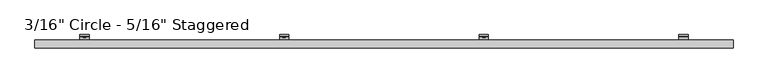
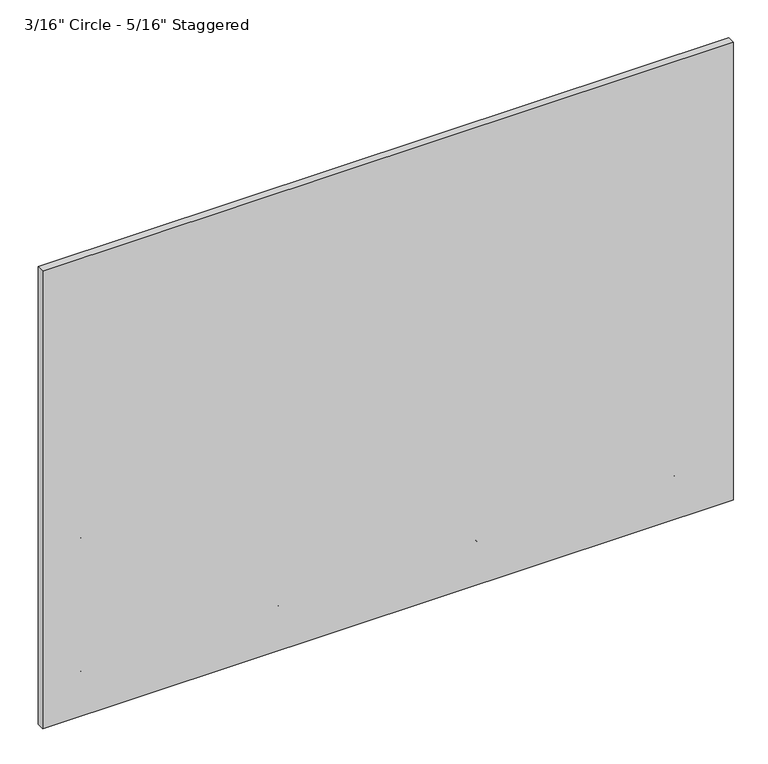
"""IFC4 building model written with IfcOpenShell, lengths in millimetres: plate geometry."""

from ifc_helpers import new_model, si_unit, point, frame, frame_2d, origin, place, context, project, spatial, polyline, circle_curve, trimmed, segment, composite_curve, outline, extrude, source, transform, mapped, element, save
from ifc_brep_helpers import plane_surface, cylinder_surface, revolved_surface, advanced_brep


def plate_24d3d4b7(model_context):
    return source(origin(), model_context, "Body", "SolidModel", [
        advanced_brep(
        [(1209.675, -47.625, 737.3555208), (1209.675, -51.2819443, 729.6934884), (1209.675, -89.5163624, 702.9214606), (1209.675, -92.9330442, 706.3381424), (1209.675, -54.3526876, 733.3523989), (1209.675, -52.4002, 737.3555917), (1209.675, -52.4002, 771.5482059), (1209.675, -47.625, 771.5482059), (1247.775, -47.625, 737.3555208), (1247.775, -47.625, 771.5482059), (1247.775, -52.4002, 771.5482059), (1247.775, -52.4002, 737.3555917), (1247.775, -54.3526876, 733.3523989), (1247.775, -92.9330442, 706.3381424), (1247.775, -89.5163624, 702.9214606), (1247.775, -51.2819443, 729.6934884), (1235.4661889, -52.4002, 757.5029897), (1235.4661889, -52.4002, 751.1529897), (1219.2383287, -52.4002, 751.1529897), (1219.2383287, -52.4002, 757.5029897), (1235.4661889, -47.625, 751.1529897), (1235.4661889, -47.625, 757.5029897), (1219.2383287, -47.625, 757.5029897), (1219.2383287, -47.625, 751.1529897)],
        [
            (0, 1, circle_curve(frame((1209.675, -57.4802202, 737.3555208), z_axis=(-1.0, 0.0, 0.0), x_axis=(0.0, -1.0, 0.0)), 9.8552202)),
            (1, 2),
            (2, 3),
            (3, 4),
            (4, 5, circle_curve(frame((1209.675, -57.4803246, 737.3555917), z_axis=(1.0, 0.0, 0.0), x_axis=(0.0, -1.0, 0.0)), 5.0801246)),
            (5, 6),
            (6, 7),
            (7, 0),
            (8, 9),
            (9, 10),
            (10, 11),
            (11, 12, circle_curve(frame((1247.775, -57.4803246, 737.3555917), z_axis=(-1.0, 0.0, 0.0), x_axis=(0.0, -1.0, 0.0)), 5.0801246)),
            (12, 13),
            (13, 14),
            (14, 15),
            (15, 8, circle_curve(frame((1247.775, -57.4802202, 737.3555208), z_axis=(1.0, 0.0, 0.0), x_axis=(0.0, -1.0, 0.0)), 9.8552202)),
            (4, 12),
            (11, 5),
            (10, 6),
            (16, 17, circle_curve(frame((1235.4661889, -52.4002, 754.3279897), z_axis=(0.0, 1.0, 0.0), x_axis=(0.0, 0.0, -1.0)), 3.175)),
            (17, 18),
            (18, 19, circle_curve(frame((1219.2383287, -52.4002, 754.3279897), z_axis=(0.0, 1.0, 0.0), x_axis=(0.0, 0.0, -1.0)), 3.175)),
            (19, 16),
            (9, 7),
            (8, 0),
            (20, 21, circle_curve(frame((1235.4661889, -47.625, 754.3279897), z_axis=(0.0, -1.0, 0.0), x_axis=(0.0, 0.0, -1.0)), 3.175)),
            (21, 22),
            (22, 23, circle_curve(frame((1219.2383287, -47.625, 754.3279897), z_axis=(0.0, -1.0, 0.0), x_axis=(0.0, 0.0, -1.0)), 3.175)),
            (23, 20),
            (15, 1),
            (20, 17),
            (16, 21),
            (19, 22),
            (18, 23),
            (14, 2),
            (13, 3),
        ],
        [
            plane_surface(frame((1209.675, -67.3354404, 737.3555208), z_axis=(-1.0, 0.0, 0.0), x_axis=(0.0, 0.0, 1.0))),
            plane_surface(frame((1247.775, -67.3354404, 737.3555208), z_axis=(1.0, 0.0, 0.0), x_axis=(0.0, 0.0, -1.0))),
            revolved_surface(polyline([(1247.775, -62.5604492, 737.3555917), (1209.675, -62.5604492, 737.3555917)]), (1247.775, -57.4803246, 737.3555917), (1.0, 0.0, 0.0)),
            plane_surface(frame((1209.675, -52.4002, 737.3555917), z_axis=(0.0, -1.0, 0.0), x_axis=(1.0, 0.0, 0.0))),
            plane_surface(frame((1209.675, -52.4002, 771.5482059), z_axis=(0.0, 0.0, 1.0), x_axis=(1.0, 0.0, 0.0))),
            plane_surface(frame((1209.675, -47.625, 771.5482059), z_axis=(0.0, 1.0, 6.99569853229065e-12), x_axis=(1.0, 0.0, 0.0))),
            cylinder_surface(frame((1247.775, -57.4802202, 737.3555208), z_axis=(-1.0, 0.0, 0.0), x_axis=(0.0, -1.0, 0.0)), 9.8552202),
            revolved_surface(polyline([(1235.4661889, -52.4002, 751.1529897), (1235.4661889, -47.625, 751.1529897)]), (1235.4661889, -25.6669948, 754.3279897), (0.0, -1.0, 0.0)),
            plane_surface(frame((1235.4661889, -86.677982, 757.5029897), z_axis=(0.0, 0.0, -1.0), x_axis=(0.0, 1.0, 0.0))),
            revolved_surface(polyline([(1219.2383287, -52.4002, 751.1529897), (1219.2383287, -47.625, 751.1529897)]), (1219.2383287, -25.6669948, 754.3279897), (0.0, -1.0, 0.0)),
            plane_surface(frame((1219.2383287, -86.677982, 751.1529897), z_axis=(-2.7237733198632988e-11, 0.0, 1.0), x_axis=(0.0, 1.0, 0.0))),
            plane_surface(frame((1209.675, -51.2819443, 729.6934884), z_axis=(0.0, 0.5735764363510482, -0.8191520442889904), x_axis=(1.0, 0.0, 0.0))),
            plane_surface(frame((1209.675, -89.5163624, 702.9214606), z_axis=(0.0, -0.7071067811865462, -0.7071067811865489), x_axis=(1.0, 0.0, 0.0))),
            plane_surface(frame((1209.675, -92.9330442, 706.3381424), z_axis=(0.0, -0.5735764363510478, 0.8191520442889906), x_axis=(1.0, 0.0, 0.0))),
        ],
        [
            (0, [[1, 2, 3, 4, 5, 6, 7, 8]]),
            (1, [[9, 10, 11, 12, 13, 14, 15, 16]]),
            (2, [[-5, 17, -12, 18]]),
            (3, [[-6, -18, -11, 19], [20, 21, 22, 23]]),
            (4, [[-7, -19, -10, 24]]),
            (5, [[-8, -24, -9, 25], [26, 27, 28, 29]]),
            (6, [[-1, -25, -16, 30]]),
            (7, [[31, -20, 32, -26]]),
            (8, [[-32, -23, 33, -27]]),
            (9, [[-33, -22, 34, -28]]),
            (10, [[-31, -29, -34, -21]]),
            (11, [[-2, -30, -15, 35]]),
            (12, [[-3, -35, -14, 36]]),
            (13, [[-4, -36, -13, -17]]),
        ],
    ),
        extrude(outline(polyline([(754.5048329, 404.5570034), (750.1591204, 407.0660017), (750.1591204, 412.0839983), (754.5048329, 414.5929966), (758.8505454, 412.0839983), (758.8505454, 407.0660017), (754.5048329, 404.5570034)])), frame((0.0, -58.7607779, 0.0), z_axis=(0.0, 1.0, 0.0), x_axis=(0.0, 0.0, 1.0)), (0.0, 0.0, 1.0), 11.1357779),
        extrude(outline(composite_curve([segment(trimmed(circle_curve(frame_2d((754.5981399, 409.575)), 6.35), [point((754.5981399, 415.925))], [point((754.5981399, 403.225))], False, "CARTESIAN"), True, "CONTINUOUS"), segment(trimmed(circle_curve(frame_2d((754.5981399, 409.575)), 6.35), [point((754.5981399, 403.225))], [point((754.5981399, 415.925))], False, "CARTESIAN"), True, "CONTINUOUS")], self_intersect=False)), frame((0.0, -57.0817743, 0.0), z_axis=(0.0, 1.0, 0.0), x_axis=(0.0, 0.0, 1.0)), (0.0, 0.0, 1.0), 9.4567743),
        advanced_brep(
        [(390.525, -47.625, 737.3555208), (390.525, -51.2819443, 729.6934884), (390.525, -89.5163624, 702.9214606), (390.525, -92.9330442, 706.3381424), (390.525, -54.3526876, 733.3523989), (390.525, -52.4002, 737.3555917), (390.525, -52.4002, 771.5482059), (390.525, -47.625, 771.5482059), (428.625, -47.625, 737.3555208), (428.625, -47.625, 771.5482059), (428.625, -52.4002, 771.5482059), (428.625, -52.4002, 737.3555917), (428.625, -54.3526876, 733.3523989), (428.625, -92.9330442, 706.3381424), (428.625, -89.5163624, 702.9214606), (428.625, -51.2819443, 729.6934884), (416.3161889, -52.4002, 757.5029897), (416.3161889, -52.4002, 751.1529897), (400.0883287, -52.4002, 751.1529897), (400.0883287, -52.4002, 757.5029897), (416.3161889, -47.625, 751.1529897), (416.3161889, -47.625, 757.5029897), (400.0883287, -47.625, 757.5029897), (400.0883287, -47.625, 751.1529897)],
        [
            (0, 1, circle_curve(frame((390.525, -57.4802202, 737.3555208), z_axis=(-1.0, 0.0, 0.0), x_axis=(0.0, -1.0, 0.0)), 9.8552202)),
            (1, 2),
            (2, 3),
            (3, 4),
            (4, 5, circle_curve(frame((390.525, -57.4803246, 737.3555917), z_axis=(1.0, 0.0, 0.0), x_axis=(0.0, -1.0, 0.0)), 5.0801246)),
            (5, 6),
            (6, 7),
            (7, 0),
            (8, 9),
            (9, 10),
            (10, 11),
            (11, 12, circle_curve(frame((428.625, -57.4803246, 737.3555917), z_axis=(-1.0, 0.0, 0.0), x_axis=(0.0, -1.0, 0.0)), 5.0801246)),
            (12, 13),
            (13, 14),
            (14, 15),
            (15, 8, circle_curve(frame((428.625, -57.4802202, 737.3555208), z_axis=(1.0, 0.0, 0.0), x_axis=(0.0, -1.0, 0.0)), 9.8552202)),
            (4, 12),
            (11, 5),
            (10, 6),
            (16, 17, circle_curve(frame((416.3161889, -52.4002, 754.3279897), z_axis=(0.0, 1.0, 0.0), x_axis=(0.0, 0.0, -1.0)), 3.175)),
            (17, 18),
            (18, 19, circle_curve(frame((400.0883287, -52.4002, 754.3279897), z_axis=(0.0, 1.0, 0.0), x_axis=(0.0, 0.0, -1.0)), 3.175)),
            (19, 16),
            (9, 7),
            (8, 0),
            (20, 21, circle_curve(frame((416.3161889, -47.625, 754.3279897), z_axis=(0.0, -1.0, 0.0), x_axis=(0.0, 0.0, -1.0)), 3.175)),
            (21, 22),
            (22, 23, circle_curve(frame((400.0883287, -47.625, 754.3279897), z_axis=(0.0, -1.0, 0.0), x_axis=(0.0, 0.0, -1.0)), 3.175)),
            (23, 20),
            (15, 1),
            (20, 17),
            (16, 21),
            (19, 22),
            (18, 23),
            (14, 2),
            (13, 3),
        ],
        [
            plane_surface(frame((390.525, -67.3354404, 737.3555208), z_axis=(-1.0, 0.0, 0.0), x_axis=(0.0, 0.0, 1.0))),
            plane_surface(frame((428.625, -67.3354404, 737.3555208), z_axis=(1.0, 0.0, 0.0), x_axis=(0.0, 0.0, -1.0))),
            revolved_surface(polyline([(428.625, -62.5604492, 737.3555917), (390.525, -62.5604492, 737.3555917)]), (428.625, -57.4803246, 737.3555917), (1.0, 0.0, 0.0)),
            plane_surface(frame((390.525, -52.4002, 737.3555917), z_axis=(0.0, -1.0, 0.0), x_axis=(1.0, 0.0, 0.0))),
            plane_surface(frame((390.525, -52.4002, 771.5482059), z_axis=(0.0, 0.0, 1.0), x_axis=(1.0, 0.0, 0.0))),
            plane_surface(frame((390.525, -47.625, 771.5482059), z_axis=(0.0, 1.0, 6.99569853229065e-12), x_axis=(1.0, 0.0, 0.0))),
            cylinder_surface(frame((428.625, -57.4802202, 737.3555208), z_axis=(-1.0, 0.0, 0.0), x_axis=(0.0, -1.0, 0.0)), 9.8552202),
            revolved_surface(polyline([(416.3161889, -52.4002, 751.1529897), (416.3161889, -47.625, 751.1529897)]), (416.3161889, -25.6669948, 754.3279897), (0.0, -1.0, 0.0)),
            plane_surface(frame((416.3161889, -86.677982, 757.5029897), z_axis=(0.0, 0.0, -1.0), x_axis=(0.0, 1.0, 0.0))),
            revolved_surface(polyline([(400.0883287, -52.4002, 751.1529897), (400.0883287, -47.625, 751.1529897)]), (400.0883287, -25.6669948, 754.3279897), (0.0, -1.0, 0.0)),
            plane_surface(frame((400.0883287, -86.677982, 751.1529897), z_axis=(-2.7237733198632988e-11, 0.0, 1.0), x_axis=(0.0, 1.0, 0.0))),
            plane_surface(frame((390.525, -51.2819443, 729.6934884), z_axis=(0.0, 0.5735764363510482, -0.8191520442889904), x_axis=(1.0, 0.0, 0.0))),
            plane_surface(frame((390.525, -89.5163624, 702.9214606), z_axis=(0.0, -0.7071067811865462, -0.7071067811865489), x_axis=(1.0, 0.0, 0.0))),
            plane_surface(frame((390.525, -92.9330442, 706.3381424), z_axis=(0.0, -0.5735764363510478, 0.8191520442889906), x_axis=(1.0, 0.0, 0.0))),
        ],
        [
            (0, [[1, 2, 3, 4, 5, 6, 7, 8]]),
            (1, [[9, 10, 11, 12, 13, 14, 15, 16]]),
            (2, [[-5, 17, -12, 18]]),
            (3, [[-6, -18, -11, 19], [20, 21, 22, 23]]),
            (4, [[-7, -19, -10, 24]]),
            (5, [[-8, -24, -9, 25], [26, 27, 28, 29]]),
            (6, [[-1, -25, -16, 30]]),
            (7, [[31, -20, 32, -26]]),
            (8, [[-32, -23, 33, -27]]),
            (9, [[-33, -22, 34, -28]]),
            (10, [[-31, -29, -34, -21]]),
            (11, [[-2, -30, -15, 35]]),
            (12, [[-3, -35, -14, 36]]),
            (13, [[-4, -36, -13, -17]]),
        ],
    ),
        extrude(outline(polyline([(754.5048329, -414.5929966), (750.1591204, -412.0839983), (750.1591204, -407.0660017), (754.5048329, -404.5570034), (758.8505454, -407.0660017), (758.8505454, -412.0839983), (754.5048329, -414.5929966)])), frame((0.0, -58.7607779, 0.0), z_axis=(0.0, 1.0, 0.0), x_axis=(0.0, 0.0, 1.0)), (0.0, 0.0, 1.0), 11.1357779),
        extrude(outline(composite_curve([segment(trimmed(circle_curve(frame_2d((754.5981399, -409.575)), 6.35), [point((754.5981399, -403.225))], [point((754.5981399, -415.925))], False, "CARTESIAN"), True, "CONTINUOUS"), segment(trimmed(circle_curve(frame_2d((754.5981399, -409.575)), 6.35), [point((754.5981399, -415.925))], [point((754.5981399, -403.225))], False, "CARTESIAN"), True, "CONTINUOUS")], self_intersect=False)), frame((0.0, -57.0817743, 0.0), z_axis=(0.0, 1.0, 0.0), x_axis=(0.0, 0.0, 1.0)), (0.0, 0.0, 1.0), 9.4567743),
        advanced_brep(
        [(-428.625, -47.625, 737.3555208), (-428.625, -51.2819443, 729.6934884), (-428.625, -89.5163624, 702.9214606), (-428.625, -92.9330442, 706.3381424), (-428.625, -54.3526876, 733.3523989), (-428.625, -52.4002, 737.3555917), (-428.625, -52.4002, 771.5482059), (-428.625, -47.625, 771.5482059), (-390.525, -47.625, 737.3555208), (-390.525, -47.625, 771.5482059), (-390.525, -52.4002, 771.5482059), (-390.525, -52.4002, 737.3555917), (-390.525, -54.3526876, 733.3523989), (-390.525, -92.9330442, 706.3381424), (-390.525, -89.5163624, 702.9214606), (-390.525, -51.2819443, 729.6934884), (-402.8338111, -52.4002, 757.5029897), (-402.8338111, -52.4002, 751.1529897), (-419.0616713, -52.4002, 751.1529897), (-419.0616713, -52.4002, 757.5029897), (-402.8338111, -47.625, 751.1529897), (-402.8338111, -47.625, 757.5029897), (-419.0616713, -47.625, 757.5029897), (-419.0616713, -47.625, 751.1529897)],
        [
            (0, 1, circle_curve(frame((-428.625, -57.4802202, 737.3555208), z_axis=(-1.0, 0.0, 0.0), x_axis=(0.0, -1.0, 0.0)), 9.8552202)),
            (1, 2),
            (2, 3),
            (3, 4),
            (4, 5, circle_curve(frame((-428.625, -57.4803246, 737.3555917), z_axis=(1.0, 0.0, 0.0), x_axis=(0.0, -1.0, 0.0)), 5.0801246)),
            (5, 6),
            (6, 7),
            (7, 0),
            (8, 9),
            (9, 10),
            (10, 11),
            (11, 12, circle_curve(frame((-390.525, -57.4803246, 737.3555917), z_axis=(-1.0, 0.0, 0.0), x_axis=(0.0, -1.0, 0.0)), 5.0801246)),
            (12, 13),
            (13, 14),
            (14, 15),
            (15, 8, circle_curve(frame((-390.525, -57.4802202, 737.3555208), z_axis=(1.0, 0.0, 0.0), x_axis=(0.0, -1.0, 0.0)), 9.8552202)),
            (4, 12),
            (11, 5),
            (10, 6),
            (16, 17, circle_curve(frame((-402.8338111, -52.4002, 754.3279897), z_axis=(0.0, 1.0, 0.0), x_axis=(0.0, 0.0, -1.0)), 3.175)),
            (17, 18),
            (18, 19, circle_curve(frame((-419.0616713, -52.4002, 754.3279897), z_axis=(0.0, 1.0, 0.0), x_axis=(0.0, 0.0, -1.0)), 3.175)),
            (19, 16),
            (9, 7),
            (8, 0),
            (20, 21, circle_curve(frame((-402.8338111, -47.625, 754.3279897), z_axis=(0.0, -1.0, 0.0), x_axis=(0.0, 0.0, -1.0)), 3.175)),
            (21, 22),
            (22, 23, circle_curve(frame((-419.0616713, -47.625, 754.3279897), z_axis=(0.0, -1.0, 0.0), x_axis=(0.0, 0.0, -1.0)), 3.175)),
            (23, 20),
            (15, 1),
            (20, 17),
            (16, 21),
            (19, 22),
            (18, 23),
            (14, 2),
            (13, 3),
        ],
        [
            plane_surface(frame((-428.625, -67.3354404, 737.3555208), z_axis=(-1.0, 0.0, 0.0), x_axis=(0.0, 0.0, 1.0))),
            plane_surface(frame((-390.525, -67.3354404, 737.3555208), z_axis=(1.0, 0.0, 0.0), x_axis=(0.0, 0.0, -1.0))),
            revolved_surface(polyline([(-390.525, -62.5604492, 737.3555917), (-428.625, -62.5604492, 737.3555917)]), (-390.525, -57.4803246, 737.3555917), (1.0, 0.0, 0.0)),
            plane_surface(frame((-428.625, -52.4002, 737.3555917), z_axis=(0.0, -1.0, 0.0), x_axis=(1.0, 0.0, 0.0))),
            plane_surface(frame((-428.625, -52.4002, 771.5482059), z_axis=(0.0, 0.0, 1.0), x_axis=(1.0, 0.0, 0.0))),
            plane_surface(frame((-428.625, -47.625, 771.5482059), z_axis=(0.0, 1.0, 6.99569853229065e-12), x_axis=(1.0, 0.0, 0.0))),
            cylinder_surface(frame((-390.525, -57.4802202, 737.3555208), z_axis=(-1.0, 0.0, 0.0), x_axis=(0.0, -1.0, 0.0)), 9.8552202),
            revolved_surface(polyline([(-402.8338111, -52.4002, 751.1529897), (-402.8338111, -47.625, 751.1529897)]), (-402.8338111, -25.6669948, 754.3279897), (0.0, -1.0, 0.0)),
            plane_surface(frame((-402.8338111, -86.677982, 757.5029897), z_axis=(0.0, 0.0, -1.0), x_axis=(0.0, 1.0, 0.0))),
            revolved_surface(polyline([(-419.0616713, -52.4002, 751.1529897), (-419.0616713, -47.625, 751.1529897)]), (-419.0616713, -25.6669948, 754.3279897), (0.0, -1.0, 0.0)),
            plane_surface(frame((-419.0616713, -86.677982, 751.1529897), z_axis=(-2.7237733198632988e-11, 0.0, 1.0), x_axis=(0.0, 1.0, 0.0))),
            plane_surface(frame((-428.625, -51.2819443, 729.6934884), z_axis=(0.0, 0.5735764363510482, -0.8191520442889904), x_axis=(1.0, 0.0, 0.0))),
            plane_surface(frame((-428.625, -89.5163624, 702.9214606), z_axis=(0.0, -0.7071067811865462, -0.7071067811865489), x_axis=(1.0, 0.0, 0.0))),
            plane_surface(frame((-428.625, -92.9330442, 706.3381424), z_axis=(0.0, -0.5735764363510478, 0.8191520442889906), x_axis=(1.0, 0.0, 0.0))),
        ],
        [
            (0, [[1, 2, 3, 4, 5, 6, 7, 8]]),
            (1, [[9, 10, 11, 12, 13, 14, 15, 16]]),
            (2, [[-5, 17, -12, 18]]),
            (3, [[-6, -18, -11, 19], [20, 21, 22, 23]]),
            (4, [[-7, -19, -10, 24]]),
            (5, [[-8, -24, -9, 25], [26, 27, 28, 29]]),
            (6, [[-1, -25, -16, 30]]),
            (7, [[31, -20, 32, -26]]),
            (8, [[-32, -23, 33, -27]]),
            (9, [[-33, -22, 34, -28]]),
            (10, [[-31, -29, -34, -21]]),
            (11, [[-2, -30, -15, 35]]),
            (12, [[-3, -35, -14, 36]]),
            (13, [[-4, -36, -13, -17]]),
        ],
    ),
        extrude(outline(polyline([(754.5048329, -1233.7429966), (750.1591204, -1231.2339983), (750.1591204, -1226.2160017), (754.5048329, -1223.7070034), (758.8505454, -1226.2160017), (758.8505454, -1231.2339983), (754.5048329, -1233.7429966)])), frame((0.0, -58.7607779, 0.0), z_axis=(0.0, 1.0, 0.0), x_axis=(0.0, 0.0, 1.0)), (0.0, 0.0, 1.0), 11.1357779),
        extrude(outline(composite_curve([segment(trimmed(circle_curve(frame_2d((754.5981399, -1228.725)), 6.35), [point((754.5981399, -1222.375))], [point((754.5981399, -1235.075))], False, "CARTESIAN"), True, "CONTINUOUS"), segment(trimmed(circle_curve(frame_2d((754.5981399, -1228.725)), 6.35), [point((754.5981399, -1235.075))], [point((754.5981399, -1222.375))], False, "CARTESIAN"), True, "CONTINUOUS")], self_intersect=False)), frame((0.0, -57.0817743, 0.0), z_axis=(0.0, 1.0, 0.0), x_axis=(0.0, 0.0, 1.0)), (0.0, 0.0, 1.0), 9.4567743),
        advanced_brep(
        [(-1247.775, -47.625, 737.3555208), (-1247.775, -51.2819443, 729.6934884), (-1247.775, -89.5163624, 702.9214606), (-1247.775, -92.9330442, 706.3381424), (-1247.775, -54.3526876, 733.3523989), (-1247.775, -52.4002, 737.3555917), (-1247.775, -52.4002, 771.5482059), (-1247.775, -47.625, 771.5482059), (-1209.675, -47.625, 737.3555208), (-1209.675, -47.625, 771.5482059), (-1209.675, -52.4002, 771.5482059), (-1209.675, -52.4002, 737.3555917), (-1209.675, -54.3526876, 733.3523989), (-1209.675, -92.9330442, 706.3381424), (-1209.675, -89.5163624, 702.9214606), (-1209.675, -51.2819443, 729.6934884), (-1221.9838111, -52.4002, 757.5029897), (-1221.9838111, -52.4002, 751.1529897), (-1238.2116713, -52.4002, 751.1529897), (-1238.2116713, -52.4002, 757.5029897), (-1221.9838111, -47.625, 751.1529897), (-1221.9838111, -47.625, 757.5029897), (-1238.2116713, -47.625, 757.5029897), (-1238.2116713, -47.625, 751.1529897)],
        [
            (0, 1, circle_curve(frame((-1247.775, -57.4802202, 737.3555208), z_axis=(-1.0, 0.0, 0.0), x_axis=(0.0, -1.0, 0.0)), 9.8552202)),
            (1, 2),
            (2, 3),
            (3, 4),
            (4, 5, circle_curve(frame((-1247.775, -57.4803246, 737.3555917), z_axis=(1.0, 0.0, 0.0), x_axis=(0.0, -1.0, 0.0)), 5.0801246)),
            (5, 6),
            (6, 7),
            (7, 0),
            (8, 9),
            (9, 10),
            (10, 11),
            (11, 12, circle_curve(frame((-1209.675, -57.4803246, 737.3555917), z_axis=(-1.0, 0.0, 0.0), x_axis=(0.0, -1.0, 0.0)), 5.0801246)),
            (12, 13),
            (13, 14),
            (14, 15),
            (15, 8, circle_curve(frame((-1209.675, -57.4802202, 737.3555208), z_axis=(1.0, 0.0, 0.0), x_axis=(0.0, -1.0, 0.0)), 9.8552202)),
            (4, 12),
            (11, 5),
            (10, 6),
            (16, 17, circle_curve(frame((-1221.9838111, -52.4002, 754.3279897), z_axis=(0.0, 1.0, 0.0), x_axis=(0.0, 0.0, -1.0)), 3.175)),
            (17, 18),
            (18, 19, circle_curve(frame((-1238.2116713, -52.4002, 754.3279897), z_axis=(0.0, 1.0, 0.0), x_axis=(0.0, 0.0, -1.0)), 3.175)),
            (19, 16),
            (9, 7),
            (8, 0),
            (20, 21, circle_curve(frame((-1221.9838111, -47.625, 754.3279897), z_axis=(0.0, -1.0, 0.0), x_axis=(0.0, 0.0, -1.0)), 3.175)),
            (21, 22),
            (22, 23, circle_curve(frame((-1238.2116713, -47.625, 754.3279897), z_axis=(0.0, -1.0, 0.0), x_axis=(0.0, 0.0, -1.0)), 3.175)),
            (23, 20),
            (15, 1),
            (20, 17),
            (16, 21),
            (19, 22),
            (18, 23),
            (14, 2),
            (13, 3),
        ],
        [
            plane_surface(frame((-1247.775, -67.3354404, 737.3555208), z_axis=(-1.0, 0.0, 0.0), x_axis=(0.0, 0.0, 1.0))),
            plane_surface(frame((-1209.675, -67.3354404, 737.3555208), z_axis=(1.0, 0.0, 0.0), x_axis=(0.0, 0.0, -1.0))),
            revolved_surface(polyline([(-1209.675, -62.5604492, 737.3555917), (-1247.775, -62.5604492, 737.3555917)]), (-1209.675, -57.4803246, 737.3555917), (1.0, 0.0, 0.0)),
            plane_surface(frame((-1247.775, -52.4002, 737.3555917), z_axis=(0.0, -1.0, 0.0), x_axis=(1.0, 0.0, 0.0))),
            plane_surface(frame((-1247.775, -52.4002, 771.5482059), z_axis=(0.0, 0.0, 1.0), x_axis=(1.0, 0.0, 0.0))),
            plane_surface(frame((-1247.775, -47.625, 771.5482059), z_axis=(0.0, 1.0, 6.99569853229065e-12), x_axis=(1.0, 0.0, 0.0))),
            cylinder_surface(frame((-1209.675, -57.4802202, 737.3555208), z_axis=(-1.0, 0.0, 0.0), x_axis=(0.0, -1.0, 0.0)), 9.8552202),
            revolved_surface(polyline([(-1221.9838111, -52.4002, 751.1529897), (-1221.9838111, -47.625, 751.1529897)]), (-1221.9838111, -25.6669948, 754.3279897), (0.0, -1.0, 0.0)),
            plane_surface(frame((-1221.9838111, -86.677982, 757.5029897), z_axis=(0.0, 0.0, -1.0), x_axis=(0.0, 1.0, 0.0))),
            revolved_surface(polyline([(-1238.2116713, -52.4002, 751.1529897), (-1238.2116713, -47.625, 751.1529897)]), (-1238.2116713, -25.6669948, 754.3279897), (0.0, -1.0, 0.0)),
            plane_surface(frame((-1238.2116713, -86.677982, 751.1529897), z_axis=(-2.7237733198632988e-11, 0.0, 1.0), x_axis=(0.0, 1.0, 0.0))),
            plane_surface(frame((-1247.775, -51.2819443, 729.6934884), z_axis=(0.0, 0.5735764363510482, -0.8191520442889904), x_axis=(1.0, 0.0, 0.0))),
            plane_surface(frame((-1247.775, -89.5163624, 702.9214606), z_axis=(0.0, -0.7071067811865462, -0.7071067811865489), x_axis=(1.0, 0.0, 0.0))),
            plane_surface(frame((-1247.775, -92.9330442, 706.3381424), z_axis=(0.0, -0.5735764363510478, 0.8191520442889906), x_axis=(1.0, 0.0, 0.0))),
        ],
        [
            (0, [[1, 2, 3, 4, 5, 6, 7, 8]]),
            (1, [[9, 10, 11, 12, 13, 14, 15, 16]]),
            (2, [[-5, 17, -12, 18]]),
            (3, [[-6, -18, -11, 19], [20, 21, 22, 23]]),
            (4, [[-7, -19, -10, 24]]),
            (5, [[-8, -24, -9, 25], [26, 27, 28, 29]]),
            (6, [[-1, -25, -16, 30]]),
            (7, [[31, -20, 32, -26]]),
            (8, [[-32, -23, 33, -27]]),
            (9, [[-33, -22, 34, -28]]),
            (10, [[-31, -29, -34, -21]]),
            (11, [[-2, -30, -15, 35]]),
            (12, [[-3, -35, -14, 36]]),
            (13, [[-4, -36, -13, -17]]),
        ],
    ),
        extrude(outline(polyline([(169.8795323, 1223.7070034), (165.5338197, 1226.2160017), (165.5338197, 1231.2339983), (169.8795323, 1233.7429966), (174.2252448, 1231.2339983), (174.2252448, 1226.2160017), (169.8795323, 1223.7070034)])), frame((0.0, -58.7607779, 0.0), z_axis=(0.0, 1.0, 0.0), x_axis=(0.0, 0.0, 1.0)), (0.0, 0.0, 1.0), 11.1357779),
        extrude(outline(composite_curve([segment(trimmed(circle_curve(frame_2d((169.9728392, 1228.725)), 6.35), [point((169.9728392, 1235.075))], [point((169.9728392, 1222.375))], False, "CARTESIAN"), True, "CONTINUOUS"), segment(trimmed(circle_curve(frame_2d((169.9728392, 1228.725)), 6.35), [point((169.9728392, 1222.375))], [point((169.9728392, 1235.075))], False, "CARTESIAN"), True, "CONTINUOUS")], self_intersect=False)), frame((0.0, -57.0817743, 0.0), z_axis=(0.0, 1.0, 0.0), x_axis=(0.0, 0.0, 1.0)), (0.0, 0.0, 1.0), 9.4567743),
        advanced_brep(
        [(1209.675, -47.625, 152.7302202), (1209.675, -51.2819443, 145.0681877), (1209.675, -89.5163624, 118.29616), (1209.675, -92.9330442, 121.7128418), (1209.675, -54.3526876, 148.7270983), (1209.675, -52.4002, 152.7302911), (1209.675, -52.4002, 186.9229053), (1209.675, -47.625, 186.9229053), (1247.775, -47.625, 152.7302202), (1247.775, -47.625, 186.9229053), (1247.775, -52.4002, 186.9229053), (1247.775, -52.4002, 152.7302911), (1247.775, -54.3526876, 148.7270983), (1247.775, -92.9330442, 121.7128418), (1247.775, -89.5163624, 118.29616), (1247.775, -51.2819443, 145.0681877), (1235.4661889, -52.4002, 172.8776891), (1235.4661889, -52.4002, 166.5276891), (1219.2383287, -52.4002, 166.5276891), (1219.2383287, -52.4002, 172.8776891), (1235.4661889, -47.625, 166.5276891), (1235.4661889, -47.625, 172.8776891), (1219.2383287, -47.625, 172.8776891), (1219.2383287, -47.625, 166.5276891)],
        [
            (0, 1, circle_curve(frame((1209.675, -57.4802202, 152.7302202), z_axis=(-1.0, 0.0, 0.0), x_axis=(0.0, -1.0, 0.0)), 9.8552202)),
            (1, 2),
            (2, 3),
            (3, 4),
            (4, 5, circle_curve(frame((1209.675, -57.4803246, 152.7302911), z_axis=(1.0, 0.0, 0.0), x_axis=(0.0, -1.0, 0.0)), 5.0801246)),
            (5, 6),
            (6, 7),
            (7, 0),
            (8, 9),
            (9, 10),
            (10, 11),
            (11, 12, circle_curve(frame((1247.775, -57.4803246, 152.7302911), z_axis=(-1.0, 0.0, 0.0), x_axis=(0.0, -1.0, 0.0)), 5.0801246)),
            (12, 13),
            (13, 14),
            (14, 15),
            (15, 8, circle_curve(frame((1247.775, -57.4802202, 152.7302202), z_axis=(1.0, 0.0, 0.0), x_axis=(0.0, -1.0, 0.0)), 9.8552202)),
            (4, 12),
            (11, 5),
            (10, 6),
            (16, 17, circle_curve(frame((1235.4661889, -52.4002, 169.7026891), z_axis=(0.0, 1.0, 0.0), x_axis=(0.0, 0.0, -1.0)), 3.175)),
            (17, 18),
            (18, 19, circle_curve(frame((1219.2383287, -52.4002, 169.7026891), z_axis=(0.0, 1.0, 0.0), x_axis=(0.0, 0.0, -1.0)), 3.175)),
            (19, 16),
            (9, 7),
            (8, 0),
            (20, 21, circle_curve(frame((1235.4661889, -47.625, 169.7026891), z_axis=(0.0, -1.0, 0.0), x_axis=(0.0, 0.0, -1.0)), 3.175)),
            (21, 22),
            (22, 23, circle_curve(frame((1219.2383287, -47.625, 169.7026891), z_axis=(0.0, -1.0, 0.0), x_axis=(0.0, 0.0, -1.0)), 3.175)),
            (23, 20),
            (15, 1),
            (20, 17),
            (16, 21),
            (19, 22),
            (18, 23),
            (14, 2),
            (13, 3),
        ],
        [
            plane_surface(frame((1209.675, -67.3354404, 152.7302202), z_axis=(-1.0, 0.0, 0.0), x_axis=(0.0, 0.0, 1.0))),
            plane_surface(frame((1247.775, -67.3354404, 152.7302202), z_axis=(1.0, 0.0, 0.0), x_axis=(0.0, 0.0, -1.0))),
            revolved_surface(polyline([(1247.775, -62.5604492, 152.7302911), (1209.675, -62.5604492, 152.7302911)]), (1247.775, -57.4803246, 152.7302911), (1.0, 0.0, 0.0)),
            plane_surface(frame((1209.675, -52.4002, 152.7302911), z_axis=(0.0, -1.0, 0.0), x_axis=(1.0, 0.0, 0.0))),
            plane_surface(frame((1209.675, -52.4002, 186.9229053), z_axis=(0.0, 0.0, 1.0), x_axis=(1.0, 0.0, 0.0))),
            plane_surface(frame((1209.675, -47.625, 186.9229053), z_axis=(0.0, 1.0, 6.99569853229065e-12), x_axis=(1.0, 0.0, 0.0))),
            cylinder_surface(frame((1247.775, -57.4802202, 152.7302202), z_axis=(-1.0, 0.0, 0.0), x_axis=(0.0, -1.0, 0.0)), 9.8552202),
            revolved_surface(polyline([(1235.4661889, -52.4002, 166.52768909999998), (1235.4661889, -47.625, 166.52768909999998)]), (1235.4661889, -25.6669948, 169.7026891), (0.0, -1.0, 0.0)),
            plane_surface(frame((1235.4661889, -86.677982, 172.8776891), z_axis=(0.0, 0.0, -1.0), x_axis=(0.0, 1.0, 0.0))),
            revolved_surface(polyline([(1219.2383287, -52.4002, 166.52768909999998), (1219.2383287, -47.625, 166.52768909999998)]), (1219.2383287, -25.6669948, 169.7026891), (0.0, -1.0, 0.0)),
            plane_surface(frame((1219.2383287, -86.677982, 166.5276891), z_axis=(-2.723774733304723e-11, 0.0, 1.0), x_axis=(0.0, 1.0, 0.0))),
            plane_surface(frame((1209.675, -51.2819443, 145.0681877), z_axis=(0.0, 0.5735764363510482, -0.8191520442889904), x_axis=(1.0, 0.0, 0.0))),
            plane_surface(frame((1209.675, -89.5163624, 118.29616), z_axis=(0.0, -0.7071067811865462, -0.7071067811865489), x_axis=(1.0, 0.0, 0.0))),
            plane_surface(frame((1209.675, -92.9330442, 121.7128418), z_axis=(0.0, -0.5735764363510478, 0.8191520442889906), x_axis=(1.0, 0.0, 0.0))),
        ],
        [
            (0, [[1, 2, 3, 4, 5, 6, 7, 8]]),
            (1, [[9, 10, 11, 12, 13, 14, 15, 16]]),
            (2, [[-5, 17, -12, 18]]),
            (3, [[-6, -18, -11, 19], [20, 21, 22, 23]]),
            (4, [[-7, -19, -10, 24]]),
            (5, [[-8, -24, -9, 25], [26, 27, 28, 29]]),
            (6, [[-1, -25, -16, 30]]),
            (7, [[31, -20, 32, -26]]),
            (8, [[-32, -23, 33, -27]]),
            (9, [[-33, -22, 34, -28]]),
            (10, [[-31, -29, -34, -21]]),
            (11, [[-2, -30, -15, 35]]),
            (12, [[-3, -35, -14, 36]]),
            (13, [[-4, -36, -13, -17]]),
        ],
    ),
        extrude(outline(polyline([(169.8795323, 404.5570034), (165.5338197, 407.0660017), (165.5338197, 412.0839983), (169.8795323, 414.5929966), (174.2252448, 412.0839983), (174.2252448, 407.0660017), (169.8795323, 404.5570034)])), frame((0.0, -58.7607779, 0.0), z_axis=(0.0, 1.0, 0.0), x_axis=(0.0, 0.0, 1.0)), (0.0, 0.0, 1.0), 11.1357779),
        extrude(outline(composite_curve([segment(trimmed(circle_curve(frame_2d((169.9728392, 409.575)), 6.35), [point((169.9728392, 415.925))], [point((169.9728392, 403.225))], False, "CARTESIAN"), True, "CONTINUOUS"), segment(trimmed(circle_curve(frame_2d((169.9728392, 409.575)), 6.35), [point((169.9728392, 403.225))], [point((169.9728392, 415.925))], False, "CARTESIAN"), True, "CONTINUOUS")], self_intersect=False)), frame((0.0, -57.0817743, 0.0), z_axis=(0.0, 1.0, 0.0), x_axis=(0.0, 0.0, 1.0)), (0.0, 0.0, 1.0), 9.4567743),
        advanced_brep(
        [(390.525, -47.625, 152.7302202), (390.525, -51.2819443, 145.0681877), (390.525, -89.5163624, 118.29616), (390.525, -92.9330442, 121.7128418), (390.525, -54.3526876, 148.7270983), (390.525, -52.4002, 152.7302911), (390.525, -52.4002, 186.9229053), (390.525, -47.625, 186.9229053), (428.625, -47.625, 152.7302202), (428.625, -47.625, 186.9229053), (428.625, -52.4002, 186.9229053), (428.625, -52.4002, 152.7302911), (428.625, -54.3526876, 148.7270983), (428.625, -92.9330442, 121.7128418), (428.625, -89.5163624, 118.29616), (428.625, -51.2819443, 145.0681877), (416.3161889, -52.4002, 172.8776891), (416.3161889, -52.4002, 166.5276891), (400.0883287, -52.4002, 166.5276891), (400.0883287, -52.4002, 172.8776891), (416.3161889, -47.625, 166.5276891), (416.3161889, -47.625, 172.8776891), (400.0883287, -47.625, 172.8776891), (400.0883287, -47.625, 166.5276891)],
        [
            (0, 1, circle_curve(frame((390.525, -57.4802202, 152.7302202), z_axis=(-1.0, 0.0, 0.0), x_axis=(0.0, -1.0, 0.0)), 9.8552202)),
            (1, 2),
            (2, 3),
            (3, 4),
            (4, 5, circle_curve(frame((390.525, -57.4803246, 152.7302911), z_axis=(1.0, 0.0, 0.0), x_axis=(0.0, -1.0, 0.0)), 5.0801246)),
            (5, 6),
            (6, 7),
            (7, 0),
            (8, 9),
            (9, 10),
            (10, 11),
            (11, 12, circle_curve(frame((428.625, -57.4803246, 152.7302911), z_axis=(-1.0, 0.0, 0.0), x_axis=(0.0, -1.0, 0.0)), 5.0801246)),
            (12, 13),
            (13, 14),
            (14, 15),
            (15, 8, circle_curve(frame((428.625, -57.4802202, 152.7302202), z_axis=(1.0, 0.0, 0.0), x_axis=(0.0, -1.0, 0.0)), 9.8552202)),
            (4, 12),
            (11, 5),
            (10, 6),
            (16, 17, circle_curve(frame((416.3161889, -52.4002, 169.7026891), z_axis=(0.0, 1.0, 0.0), x_axis=(0.0, 0.0, -1.0)), 3.175)),
            (17, 18),
            (18, 19, circle_curve(frame((400.0883287, -52.4002, 169.7026891), z_axis=(0.0, 1.0, 0.0), x_axis=(0.0, 0.0, -1.0)), 3.175)),
            (19, 16),
            (9, 7),
            (8, 0),
            (20, 21, circle_curve(frame((416.3161889, -47.625, 169.7026891), z_axis=(0.0, -1.0, 0.0), x_axis=(0.0, 0.0, -1.0)), 3.175)),
            (21, 22),
            (22, 23, circle_curve(frame((400.0883287, -47.625, 169.7026891), z_axis=(0.0, -1.0, 0.0), x_axis=(0.0, 0.0, -1.0)), 3.175)),
            (23, 20),
            (15, 1),
            (20, 17),
            (16, 21),
            (19, 22),
            (18, 23),
            (14, 2),
            (13, 3),
        ],
        [
            plane_surface(frame((390.525, -67.3354404, 152.7302202), z_axis=(-1.0, 0.0, 0.0), x_axis=(0.0, 0.0, 1.0))),
            plane_surface(frame((428.625, -67.3354404, 152.7302202), z_axis=(1.0, 0.0, 0.0), x_axis=(0.0, 0.0, -1.0))),
            revolved_surface(polyline([(428.625, -62.5604492, 152.7302911), (390.525, -62.5604492, 152.7302911)]), (428.625, -57.4803246, 152.7302911), (1.0, 0.0, 0.0)),
            plane_surface(frame((390.525, -52.4002, 152.7302911), z_axis=(0.0, -1.0, 0.0), x_axis=(1.0, 0.0, 0.0))),
            plane_surface(frame((390.525, -52.4002, 186.9229053), z_axis=(0.0, 0.0, 1.0), x_axis=(1.0, 0.0, 0.0))),
            plane_surface(frame((390.525, -47.625, 186.9229053), z_axis=(0.0, 1.0, 6.99569853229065e-12), x_axis=(1.0, 0.0, 0.0))),
            cylinder_surface(frame((428.625, -57.4802202, 152.7302202), z_axis=(-1.0, 0.0, 0.0), x_axis=(0.0, -1.0, 0.0)), 9.8552202),
            revolved_surface(polyline([(416.3161889, -52.4002, 166.52768909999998), (416.3161889, -47.625, 166.52768909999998)]), (416.3161889, -25.6669948, 169.7026891), (0.0, -1.0, 0.0)),
            plane_surface(frame((416.3161889, -86.677982, 172.8776891), z_axis=(0.0, 0.0, -1.0), x_axis=(0.0, 1.0, 0.0))),
            revolved_surface(polyline([(400.0883287, -52.4002, 166.52768909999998), (400.0883287, -47.625, 166.52768909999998)]), (400.0883287, -25.6669948, 169.7026891), (0.0, -1.0, 0.0)),
            plane_surface(frame((400.0883287, -86.677982, 166.5276891), z_axis=(-2.723774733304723e-11, 0.0, 1.0), x_axis=(0.0, 1.0, 0.0))),
            plane_surface(frame((390.525, -51.2819443, 145.0681877), z_axis=(0.0, 0.5735764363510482, -0.8191520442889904), x_axis=(1.0, 0.0, 0.0))),
            plane_surface(frame((390.525, -89.5163624, 118.29616), z_axis=(0.0, -0.7071067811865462, -0.7071067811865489), x_axis=(1.0, 0.0, 0.0))),
            plane_surface(frame((390.525, -92.9330442, 121.7128418), z_axis=(0.0, -0.5735764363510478, 0.8191520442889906), x_axis=(1.0, 0.0, 0.0))),
        ],
        [
            (0, [[1, 2, 3, 4, 5, 6, 7, 8]]),
            (1, [[9, 10, 11, 12, 13, 14, 15, 16]]),
            (2, [[-5, 17, -12, 18]]),
            (3, [[-6, -18, -11, 19], [20, 21, 22, 23]]),
            (4, [[-7, -19, -10, 24]]),
            (5, [[-8, -24, -9, 25], [26, 27, 28, 29]]),
            (6, [[-1, -25, -16, 30]]),
            (7, [[31, -20, 32, -26]]),
            (8, [[-32, -23, 33, -27]]),
            (9, [[-33, -22, 34, -28]]),
            (10, [[-31, -29, -34, -21]]),
            (11, [[-2, -30, -15, 35]]),
            (12, [[-3, -35, -14, 36]]),
            (13, [[-4, -36, -13, -17]]),
        ],
    ),
        extrude(outline(polyline([(169.8795323, -414.5929966), (165.5338197, -412.0839983), (165.5338197, -407.0660017), (169.8795323, -404.5570034), (174.2252448, -407.0660017), (174.2252448, -412.0839983), (169.8795323, -414.5929966)])), frame((0.0, -58.7607779, 0.0), z_axis=(0.0, 1.0, 0.0), x_axis=(0.0, 0.0, 1.0)), (0.0, 0.0, 1.0), 11.1357779),
        extrude(outline(composite_curve([segment(trimmed(circle_curve(frame_2d((169.9728392, -409.575)), 6.35), [point((169.9728392, -403.225))], [point((169.9728392, -415.925))], False, "CARTESIAN"), True, "CONTINUOUS"), segment(trimmed(circle_curve(frame_2d((169.9728392, -409.575)), 6.35), [point((169.9728392, -415.925))], [point((169.9728392, -403.225))], False, "CARTESIAN"), True, "CONTINUOUS")], self_intersect=False)), frame((0.0, -57.0817743, 0.0), z_axis=(0.0, 1.0, 0.0), x_axis=(0.0, 0.0, 1.0)), (0.0, 0.0, 1.0), 9.4567743),
        advanced_brep(
        [(-428.625, -47.625, 152.7302202), (-428.625, -51.2819443, 145.0681877), (-428.625, -89.5163624, 118.29616), (-428.625, -92.9330442, 121.7128418), (-428.625, -54.3526876, 148.7270983), (-428.625, -52.4002, 152.7302911), (-428.625, -52.4002, 186.9229053), (-428.625, -47.625, 186.9229053), (-390.525, -47.625, 152.7302202), (-390.525, -47.625, 186.9229053), (-390.525, -52.4002, 186.9229053), (-390.525, -52.4002, 152.7302911), (-390.525, -54.3526876, 148.7270983), (-390.525, -92.9330442, 121.7128418), (-390.525, -89.5163624, 118.29616), (-390.525, -51.2819443, 145.0681877), (-402.8338111, -52.4002, 172.8776891), (-402.8338111, -52.4002, 166.5276891), (-419.0616713, -52.4002, 166.5276891), (-419.0616713, -52.4002, 172.8776891), (-402.8338111, -47.625, 166.5276891), (-402.8338111, -47.625, 172.8776891), (-419.0616713, -47.625, 172.8776891), (-419.0616713, -47.625, 166.5276891)],
        [
            (0, 1, circle_curve(frame((-428.625, -57.4802202, 152.7302202), z_axis=(-1.0, 0.0, 0.0), x_axis=(0.0, -1.0, 0.0)), 9.8552202)),
            (1, 2),
            (2, 3),
            (3, 4),
            (4, 5, circle_curve(frame((-428.625, -57.4803246, 152.7302911), z_axis=(1.0, 0.0, 0.0), x_axis=(0.0, -1.0, 0.0)), 5.0801246)),
            (5, 6),
            (6, 7),
            (7, 0),
            (8, 9),
            (9, 10),
            (10, 11),
            (11, 12, circle_curve(frame((-390.525, -57.4803246, 152.7302911), z_axis=(-1.0, 0.0, 0.0), x_axis=(0.0, -1.0, 0.0)), 5.0801246)),
            (12, 13),
            (13, 14),
            (14, 15),
            (15, 8, circle_curve(frame((-390.525, -57.4802202, 152.7302202), z_axis=(1.0, 0.0, 0.0), x_axis=(0.0, -1.0, 0.0)), 9.8552202)),
            (4, 12),
            (11, 5),
            (10, 6),
            (16, 17, circle_curve(frame((-402.8338111, -52.4002, 169.7026891), z_axis=(0.0, 1.0, 0.0), x_axis=(0.0, 0.0, -1.0)), 3.175)),
            (17, 18),
            (18, 19, circle_curve(frame((-419.0616713, -52.4002, 169.7026891), z_axis=(0.0, 1.0, 0.0), x_axis=(0.0, 0.0, -1.0)), 3.175)),
            (19, 16),
            (9, 7),
            (8, 0),
            (20, 21, circle_curve(frame((-402.8338111, -47.625, 169.7026891), z_axis=(0.0, -1.0, 0.0), x_axis=(0.0, 0.0, -1.0)), 3.175)),
            (21, 22),
            (22, 23, circle_curve(frame((-419.0616713, -47.625, 169.7026891), z_axis=(0.0, -1.0, 0.0), x_axis=(0.0, 0.0, -1.0)), 3.175)),
            (23, 20),
            (15, 1),
            (20, 17),
            (16, 21),
            (19, 22),
            (18, 23),
            (14, 2),
            (13, 3),
        ],
        [
            plane_surface(frame((-428.625, -67.3354404, 152.7302202), z_axis=(-1.0, 0.0, 0.0), x_axis=(0.0, 0.0, 1.0))),
            plane_surface(frame((-390.525, -67.3354404, 152.7302202), z_axis=(1.0, 0.0, 0.0), x_axis=(0.0, 0.0, -1.0))),
            revolved_surface(polyline([(-390.525, -62.5604492, 152.7302911), (-428.625, -62.5604492, 152.7302911)]), (-390.525, -57.4803246, 152.7302911), (1.0, 0.0, 0.0)),
            plane_surface(frame((-428.625, -52.4002, 152.7302911), z_axis=(0.0, -1.0, 0.0), x_axis=(1.0, 0.0, 0.0))),
            plane_surface(frame((-428.625, -52.4002, 186.9229053), z_axis=(0.0, 0.0, 1.0), x_axis=(1.0, 0.0, 0.0))),
            plane_surface(frame((-428.625, -47.625, 186.9229053), z_axis=(0.0, 1.0, 6.99569853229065e-12), x_axis=(1.0, 0.0, 0.0))),
            cylinder_surface(frame((-390.525, -57.4802202, 152.7302202), z_axis=(-1.0, 0.0, 0.0), x_axis=(0.0, -1.0, 0.0)), 9.8552202),
            revolved_surface(polyline([(-402.8338111, -52.4002, 166.52768909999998), (-402.8338111, -47.625, 166.52768909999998)]), (-402.8338111, -25.6669948, 169.7026891), (0.0, -1.0, 0.0)),
            plane_surface(frame((-402.8338111, -86.677982, 172.8776891), z_axis=(0.0, 0.0, -1.0), x_axis=(0.0, 1.0, 0.0))),
            revolved_surface(polyline([(-419.0616713, -52.4002, 166.52768909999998), (-419.0616713, -47.625, 166.52768909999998)]), (-419.0616713, -25.6669948, 169.7026891), (0.0, -1.0, 0.0)),
            plane_surface(frame((-419.0616713, -86.677982, 166.5276891), z_axis=(-2.723774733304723e-11, 0.0, 1.0), x_axis=(0.0, 1.0, 0.0))),
            plane_surface(frame((-428.625, -51.2819443, 145.0681877), z_axis=(0.0, 0.5735764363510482, -0.8191520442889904), x_axis=(1.0, 0.0, 0.0))),
            plane_surface(frame((-428.625, -89.5163624, 118.29616), z_axis=(0.0, -0.7071067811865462, -0.7071067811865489), x_axis=(1.0, 0.0, 0.0))),
            plane_surface(frame((-428.625, -92.9330442, 121.7128418), z_axis=(0.0, -0.5735764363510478, 0.8191520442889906), x_axis=(1.0, 0.0, 0.0))),
        ],
        [
            (0, [[1, 2, 3, 4, 5, 6, 7, 8]]),
            (1, [[9, 10, 11, 12, 13, 14, 15, 16]]),
            (2, [[-5, 17, -12, 18]]),
            (3, [[-6, -18, -11, 19], [20, 21, 22, 23]]),
            (4, [[-7, -19, -10, 24]]),
            (5, [[-8, -24, -9, 25], [26, 27, 28, 29]]),
            (6, [[-1, -25, -16, 30]]),
            (7, [[31, -20, 32, -26]]),
            (8, [[-32, -23, 33, -27]]),
            (9, [[-33, -22, 34, -28]]),
            (10, [[-31, -29, -34, -21]]),
            (11, [[-2, -30, -15, 35]]),
            (12, [[-3, -35, -14, 36]]),
            (13, [[-4, -36, -13, -17]]),
        ],
    ),
        extrude(outline(polyline([(169.8795323, -1233.7429966), (165.5338197, -1231.2339983), (165.5338197, -1226.2160017), (169.8795323, -1223.7070034), (174.2252448, -1226.2160017), (174.2252448, -1231.2339983), (169.8795323, -1233.7429966)])), frame((0.0, -58.7607779, 0.0), z_axis=(0.0, 1.0, 0.0), x_axis=(0.0, 0.0, 1.0)), (0.0, 0.0, 1.0), 11.1357779),
        extrude(outline(composite_curve([segment(trimmed(circle_curve(frame_2d((169.9728392, -1228.725)), 6.35), [point((169.9728392, -1222.375))], [point((169.9728392, -1235.075))], False, "CARTESIAN"), True, "CONTINUOUS"), segment(trimmed(circle_curve(frame_2d((169.9728392, -1228.725)), 6.35), [point((169.9728392, -1235.075))], [point((169.9728392, -1222.375))], False, "CARTESIAN"), True, "CONTINUOUS")], self_intersect=False)), frame((0.0, -57.0817743, 0.0), z_axis=(0.0, 1.0, 0.0), x_axis=(0.0, 0.0, 1.0)), (0.0, 0.0, 1.0), 9.4567743),
        advanced_brep(
        [(-1247.775, -47.625, 152.7302202), (-1247.775, -51.2819443, 145.0681877), (-1247.775, -89.5163624, 118.29616), (-1247.775, -92.9330442, 121.7128418), (-1247.775, -54.3526876, 148.7270983), (-1247.775, -52.4002, 152.7302911), (-1247.775, -52.4002, 186.9229053), (-1247.775, -47.625, 186.9229053), (-1209.675, -47.625, 152.7302202), (-1209.675, -47.625, 186.9229053), (-1209.675, -52.4002, 186.9229053), (-1209.675, -52.4002, 152.7302911), (-1209.675, -54.3526876, 148.7270983), (-1209.675, -92.9330442, 121.7128418), (-1209.675, -89.5163624, 118.29616), (-1209.675, -51.2819443, 145.0681877), (-1221.9838111, -52.4002, 172.8776891), (-1221.9838111, -52.4002, 166.5276891), (-1238.2116713, -52.4002, 166.5276891), (-1238.2116713, -52.4002, 172.8776891), (-1221.9838111, -47.625, 166.5276891), (-1221.9838111, -47.625, 172.8776891), (-1238.2116713, -47.625, 172.8776891), (-1238.2116713, -47.625, 166.5276891)],
        [
            (0, 1, circle_curve(frame((-1247.775, -57.4802202, 152.7302202), z_axis=(-1.0, 0.0, 0.0), x_axis=(0.0, -1.0, 0.0)), 9.8552202)),
            (1, 2),
            (2, 3),
            (3, 4),
            (4, 5, circle_curve(frame((-1247.775, -57.4803246, 152.7302911), z_axis=(1.0, 0.0, 0.0), x_axis=(0.0, -1.0, 0.0)), 5.0801246)),
            (5, 6),
            (6, 7),
            (7, 0),
            (8, 9),
            (9, 10),
            (10, 11),
            (11, 12, circle_curve(frame((-1209.675, -57.4803246, 152.7302911), z_axis=(-1.0, 0.0, 0.0), x_axis=(0.0, -1.0, 0.0)), 5.0801246)),
            (12, 13),
            (13, 14),
            (14, 15),
            (15, 8, circle_curve(frame((-1209.675, -57.4802202, 152.7302202), z_axis=(1.0, 0.0, 0.0), x_axis=(0.0, -1.0, 0.0)), 9.8552202)),
            (4, 12),
            (11, 5),
            (10, 6),
            (16, 17, circle_curve(frame((-1221.9838111, -52.4002, 169.7026891), z_axis=(0.0, 1.0, 0.0), x_axis=(0.0, 0.0, -1.0)), 3.175)),
            (17, 18),
            (18, 19, circle_curve(frame((-1238.2116713, -52.4002, 169.7026891), z_axis=(0.0, 1.0, 0.0), x_axis=(0.0, 0.0, -1.0)), 3.175)),
            (19, 16),
            (9, 7),
            (8, 0),
            (20, 21, circle_curve(frame((-1221.9838111, -47.625, 169.7026891), z_axis=(0.0, -1.0, 0.0), x_axis=(0.0, 0.0, -1.0)), 3.175)),
            (21, 22),
            (22, 23, circle_curve(frame((-1238.2116713, -47.625, 169.7026891), z_axis=(0.0, -1.0, 0.0), x_axis=(0.0, 0.0, -1.0)), 3.175)),
            (23, 20),
            (15, 1),
            (20, 17),
            (16, 21),
            (19, 22),
            (18, 23),
            (14, 2),
            (13, 3),
        ],
        [
            plane_surface(frame((-1247.775, -67.3354404, 152.7302202), z_axis=(-1.0, 0.0, 0.0), x_axis=(0.0, 0.0, 1.0))),
            plane_surface(frame((-1209.675, -67.3354404, 152.7302202), z_axis=(1.0, 0.0, 0.0), x_axis=(0.0, 0.0, -1.0))),
            revolved_surface(polyline([(-1209.675, -62.5604492, 152.7302911), (-1247.775, -62.5604492, 152.7302911)]), (-1209.675, -57.4803246, 152.7302911), (1.0, 0.0, 0.0)),
            plane_surface(frame((-1247.775, -52.4002, 152.7302911), z_axis=(0.0, -1.0, 0.0), x_axis=(1.0, 0.0, 0.0))),
            plane_surface(frame((-1247.775, -52.4002, 186.9229053), z_axis=(0.0, 0.0, 1.0), x_axis=(1.0, 0.0, 0.0))),
            plane_surface(frame((-1247.775, -47.625, 186.9229053), z_axis=(0.0, 1.0, 6.99569853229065e-12), x_axis=(1.0, 0.0, 0.0))),
            cylinder_surface(frame((-1209.675, -57.4802202, 152.7302202), z_axis=(-1.0, 0.0, 0.0), x_axis=(0.0, -1.0, 0.0)), 9.8552202),
            revolved_surface(polyline([(-1221.9838111, -52.4002, 166.52768909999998), (-1221.9838111, -47.625, 166.52768909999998)]), (-1221.9838111, -25.6669948, 169.7026891), (0.0, -1.0, 0.0)),
            plane_surface(frame((-1221.9838111, -86.677982, 172.8776891), z_axis=(0.0, 0.0, -1.0), x_axis=(0.0, 1.0, 0.0))),
            revolved_surface(polyline([(-1238.2116713, -52.4002, 166.52768909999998), (-1238.2116713, -47.625, 166.52768909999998)]), (-1238.2116713, -25.6669948, 169.7026891), (0.0, -1.0, 0.0)),
            plane_surface(frame((-1238.2116713, -86.677982, 166.5276891), z_axis=(-2.723774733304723e-11, 0.0, 1.0), x_axis=(0.0, 1.0, 0.0))),
            plane_surface(frame((-1247.775, -51.2819443, 145.0681877), z_axis=(0.0, 0.5735764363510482, -0.8191520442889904), x_axis=(1.0, 0.0, 0.0))),
            plane_surface(frame((-1247.775, -89.5163624, 118.29616), z_axis=(0.0, -0.7071067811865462, -0.7071067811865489), x_axis=(1.0, 0.0, 0.0))),
            plane_surface(frame((-1247.775, -92.9330442, 121.7128418), z_axis=(0.0, -0.5735764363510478, 0.8191520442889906), x_axis=(1.0, 0.0, 0.0))),
        ],
        [
            (0, [[1, 2, 3, 4, 5, 6, 7, 8]]),
            (1, [[9, 10, 11, 12, 13, 14, 15, 16]]),
            (2, [[-5, 17, -12, 18]]),
            (3, [[-6, -18, -11, 19], [20, 21, 22, 23]]),
            (4, [[-7, -19, -10, 24]]),
            (5, [[-8, -24, -9, 25], [26, 27, 28, 29]]),
            (6, [[-1, -25, -16, 30]]),
            (7, [[31, -20, 32, -26]]),
            (8, [[-32, -23, 33, -27]]),
            (9, [[-33, -22, 34, -28]]),
            (10, [[-31, -29, -34, -21]]),
            (11, [[-2, -30, -15, 35]]),
            (12, [[-3, -35, -14, 36]]),
            (13, [[-4, -36, -13, -17]]),
        ],
    ),
        extrude(outline(polyline([(1431.925, -102.4064478), (-1431.925, -102.4064478), (-1431.925, -69.9147678), (1431.925, -69.9147678), (1431.925, -102.4064478)])), frame((0.0, 0.0, 15.875), z_axis=(0.0, 0.0, 1.0), x_axis=(1.0, 0.0, 0.0)), (0.0, 0.0, 1.0), 2007.8759019),
    ])


if __name__ == "__main__":
    model = new_model("IFC4")
    model_context = context("Model", 3, world=origin())
    ifc_project = project(units=[si_unit("LENGTHUNIT", "METRE", prefix="MILLI")], contexts=[model_context])
    site = spatial("IfcSite", under=ifc_project)
    building = spatial("IfcBuilding", under=site)
    placement = place(None, origin())
    plate_shape = plate_24d3d4b7(model_context)
    element("IfcPlate", 1, ObjectType="Single-Panel-Perforated-Amico_Architectural : 3/16\" Circle - 5/16\" Staggered", at=placement, inside=building, context=model_context, shape_type="MappedRepresentation", body=[
        mapped(plate_shape, transform((0.0, 0.0, 0.0), x_axis=(1.0, 0.0, 0.0), y_axis=(0.0, 1.0, 0.0), z_axis=(0.0, 0.0, 1.0))),
    ])
    save(model, "model.ifc")
